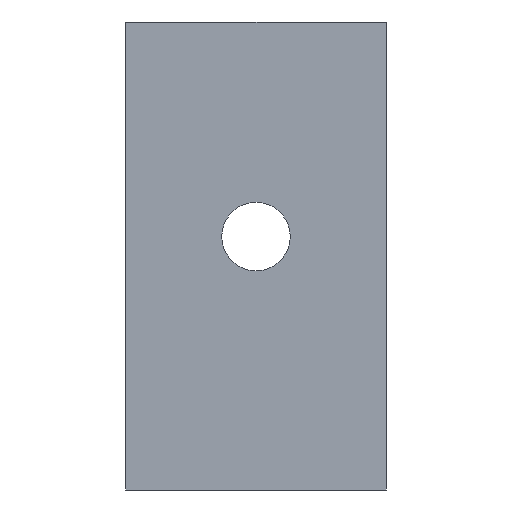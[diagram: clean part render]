
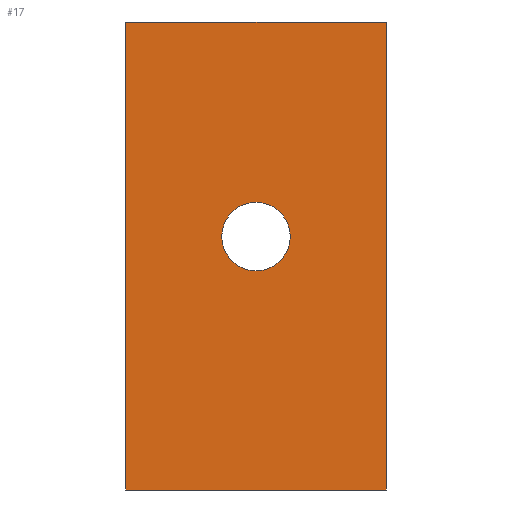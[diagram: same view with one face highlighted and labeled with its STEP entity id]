
A CAD part, left-side view. The second image highlights one B-rep face of the part: STEP entity #17.
In plain terms, the highlighted planar face has unit normal (-1, 0, 0).
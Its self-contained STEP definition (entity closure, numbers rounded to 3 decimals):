
#17 = ADVANCED_FACE('',(#18,#137),#32,.F.);
#18 = FACE_BOUND('',#19,.F.);
#19 = EDGE_LOOP('',(#20,#55,#83,#111));
#20 = ORIENTED_EDGE('',*,*,#21,.F.);
#21 = EDGE_CURVE('',#22,#24,#26,.T.);
#22 = VERTEX_POINT('',#23);
#23 = CARTESIAN_POINT('',(0.,-10.085,0.));
#24 = VERTEX_POINT('',#25);
#25 = CARTESIAN_POINT('',(0.,-10.085,36.2));
#26 = SURFACE_CURVE('',#27,(#31,#43),.PCURVE_S1.);
#27 = LINE('',#28,#29);
#28 = CARTESIAN_POINT('',(0.,-10.085,0.));
#29 = VECTOR('',#30,1.);
#30 = DIRECTION('',(0.,0.,1.));
#31 = PCURVE('',#32,#37);
#32 = PLANE('',#33);
#33 = AXIS2_PLACEMENT_3D('',#34,#35,#36);
#34 = CARTESIAN_POINT('',(0.,-10.085,0.));
#35 = DIRECTION('',(1.,0.,0.));
#36 = DIRECTION('',(0.,0.,1.));
#37 = DEFINITIONAL_REPRESENTATION('',(#38),#42);
#38 = LINE('',#39,#40);
#39 = CARTESIAN_POINT('',(0.,0.));
#40 = VECTOR('',#41,1.);
#41 = DIRECTION('',(1.,0.));
#42 = ( GEOMETRIC_REPRESENTATION_CONTEXT(2) 
PARAMETRIC_REPRESENTATION_CONTEXT() REPRESENTATION_CONTEXT('2D SPACE',''
  ) );
#43 = PCURVE('',#44,#49);
#44 = PLANE('',#45);
#45 = AXIS2_PLACEMENT_3D('',#46,#47,#48);
#46 = CARTESIAN_POINT('',(0.,-10.085,0.));
#47 = DIRECTION('',(0.,1.,0.));
#48 = DIRECTION('',(0.,0.,1.));
#49 = DEFINITIONAL_REPRESENTATION('',(#50),#54);
#50 = LINE('',#51,#52);
#51 = CARTESIAN_POINT('',(0.,0.));
#52 = VECTOR('',#53,1.);
#53 = DIRECTION('',(1.,0.));
#54 = ( GEOMETRIC_REPRESENTATION_CONTEXT(2) 
PARAMETRIC_REPRESENTATION_CONTEXT() REPRESENTATION_CONTEXT('2D SPACE',''
  ) );
#55 = ORIENTED_EDGE('',*,*,#56,.T.);
#56 = EDGE_CURVE('',#22,#57,#59,.T.);
#57 = VERTEX_POINT('',#58);
#58 = CARTESIAN_POINT('',(0.,10.085,0.));
#59 = SURFACE_CURVE('',#60,(#64,#71),.PCURVE_S1.);
#60 = LINE('',#61,#62);
#61 = CARTESIAN_POINT('',(0.,-10.085,0.));
#62 = VECTOR('',#63,1.);
#63 = DIRECTION('',(0.,1.,0.));
#64 = PCURVE('',#32,#65);
#65 = DEFINITIONAL_REPRESENTATION('',(#66),#70);
#66 = LINE('',#67,#68);
#67 = CARTESIAN_POINT('',(0.,0.));
#68 = VECTOR('',#69,1.);
#69 = DIRECTION('',(0.,-1.));
#70 = ( GEOMETRIC_REPRESENTATION_CONTEXT(2) 
PARAMETRIC_REPRESENTATION_CONTEXT() REPRESENTATION_CONTEXT('2D SPACE',''
  ) );
#71 = PCURVE('',#72,#77);
#72 = PLANE('',#73);
#73 = AXIS2_PLACEMENT_3D('',#74,#75,#76);
#74 = CARTESIAN_POINT('',(0.,-10.085,0.));
#75 = DIRECTION('',(0.,0.,1.));
#76 = DIRECTION('',(1.,0.,0.));
#77 = DEFINITIONAL_REPRESENTATION('',(#78),#82);
#78 = LINE('',#79,#80);
#79 = CARTESIAN_POINT('',(0.,0.));
#80 = VECTOR('',#81,1.);
#81 = DIRECTION('',(0.,1.));
#82 = ( GEOMETRIC_REPRESENTATION_CONTEXT(2) 
PARAMETRIC_REPRESENTATION_CONTEXT() REPRESENTATION_CONTEXT('2D SPACE',''
  ) );
#83 = ORIENTED_EDGE('',*,*,#84,.F.);
#84 = EDGE_CURVE('',#85,#57,#87,.T.);
#85 = VERTEX_POINT('',#86);
#86 = CARTESIAN_POINT('',(0.,10.085,36.2));
#87 = SURFACE_CURVE('',#88,(#92,#99),.PCURVE_S1.);
#88 = LINE('',#89,#90);
#89 = CARTESIAN_POINT('',(0.,10.085,36.2));
#90 = VECTOR('',#91,1.);
#91 = DIRECTION('',(0.,0.,-1.));
#92 = PCURVE('',#32,#93);
#93 = DEFINITIONAL_REPRESENTATION('',(#94),#98);
#94 = LINE('',#95,#96);
#95 = CARTESIAN_POINT('',(36.2,-20.17));
#96 = VECTOR('',#97,1.);
#97 = DIRECTION('',(-1.,0.));
#98 = ( GEOMETRIC_REPRESENTATION_CONTEXT(2) 
PARAMETRIC_REPRESENTATION_CONTEXT() REPRESENTATION_CONTEXT('2D SPACE',''
  ) );
#99 = PCURVE('',#100,#105);
#100 = PLANE('',#101);
#101 = AXIS2_PLACEMENT_3D('',#102,#103,#104);
#102 = CARTESIAN_POINT('',(0.,10.085,0.));
#103 = DIRECTION('',(0.,1.,0.));
#104 = DIRECTION('',(0.,0.,1.));
#105 = DEFINITIONAL_REPRESENTATION('',(#106),#110);
#106 = LINE('',#107,#108);
#107 = CARTESIAN_POINT('',(36.2,0.));
#108 = VECTOR('',#109,1.);
#109 = DIRECTION('',(-1.,0.));
#110 = ( GEOMETRIC_REPRESENTATION_CONTEXT(2) 
PARAMETRIC_REPRESENTATION_CONTEXT() REPRESENTATION_CONTEXT('2D SPACE',''
  ) );
#111 = ORIENTED_EDGE('',*,*,#112,.F.);
#112 = EDGE_CURVE('',#24,#85,#113,.T.);
#113 = SURFACE_CURVE('',#114,(#118,#125),.PCURVE_S1.);
#114 = LINE('',#115,#116);
#115 = CARTESIAN_POINT('',(0.,-10.085,36.2));
#116 = VECTOR('',#117,1.);
#117 = DIRECTION('',(0.,1.,0.));
#118 = PCURVE('',#32,#119);
#119 = DEFINITIONAL_REPRESENTATION('',(#120),#124);
#120 = LINE('',#121,#122);
#121 = CARTESIAN_POINT('',(36.2,0.));
#122 = VECTOR('',#123,1.);
#123 = DIRECTION('',(0.,-1.));
#124 = ( GEOMETRIC_REPRESENTATION_CONTEXT(2) 
PARAMETRIC_REPRESENTATION_CONTEXT() REPRESENTATION_CONTEXT('2D SPACE',''
  ) );
#125 = PCURVE('',#126,#131);
#126 = PLANE('',#127);
#127 = AXIS2_PLACEMENT_3D('',#128,#129,#130);
#128 = CARTESIAN_POINT('',(0.,-10.085,36.2));
#129 = DIRECTION('',(0.,0.,1.));
#130 = DIRECTION('',(1.,0.,0.));
#131 = DEFINITIONAL_REPRESENTATION('',(#132),#136);
#132 = LINE('',#133,#134);
#133 = CARTESIAN_POINT('',(0.,0.));
#134 = VECTOR('',#135,1.);
#135 = DIRECTION('',(0.,1.));
#136 = ( GEOMETRIC_REPRESENTATION_CONTEXT(2) 
PARAMETRIC_REPRESENTATION_CONTEXT() REPRESENTATION_CONTEXT('2D SPACE',''
  ) );
#137 = FACE_BOUND('',#138,.F.);
#138 = EDGE_LOOP('',(#139));
#139 = ORIENTED_EDGE('',*,*,#140,.F.);
#140 = EDGE_CURVE('',#141,#141,#143,.T.);
#141 = VERTEX_POINT('',#142);
#142 = CARTESIAN_POINT('',(-0.,2.65,19.6));
#143 = SURFACE_CURVE('',#144,(#149,#156),.PCURVE_S1.);
#144 = CIRCLE('',#145,2.65);
#145 = AXIS2_PLACEMENT_3D('',#146,#147,#148);
#146 = CARTESIAN_POINT('',(0.,0.,19.6));
#147 = DIRECTION('',(1.,0.,0.));
#148 = DIRECTION('',(0.,1.,0.));
#149 = PCURVE('',#32,#150);
#150 = DEFINITIONAL_REPRESENTATION('',(#151),#155);
#151 = CIRCLE('',#152,2.65);
#152 = AXIS2_PLACEMENT_2D('',#153,#154);
#153 = CARTESIAN_POINT('',(19.6,-10.085));
#154 = DIRECTION('',(0.,-1.));
#155 = ( GEOMETRIC_REPRESENTATION_CONTEXT(2) 
PARAMETRIC_REPRESENTATION_CONTEXT() REPRESENTATION_CONTEXT('2D SPACE',''
  ) );
#156 = PCURVE('',#157,#162);
#157 = CYLINDRICAL_SURFACE('',#158,2.65);
#158 = AXIS2_PLACEMENT_3D('',#159,#160,#161);
#159 = CARTESIAN_POINT('',(0.,0.,19.6));
#160 = DIRECTION('',(1.,0.,0.));
#161 = DIRECTION('',(0.,1.,0.));
#162 = DEFINITIONAL_REPRESENTATION('',(#163),#167);
#163 = LINE('',#164,#165);
#164 = CARTESIAN_POINT('',(0.,0.));
#165 = VECTOR('',#166,1.);
#166 = DIRECTION('',(1.,0.));
#167 = ( GEOMETRIC_REPRESENTATION_CONTEXT(2) 
PARAMETRIC_REPRESENTATION_CONTEXT() REPRESENTATION_CONTEXT('2D SPACE',''
  ) );
